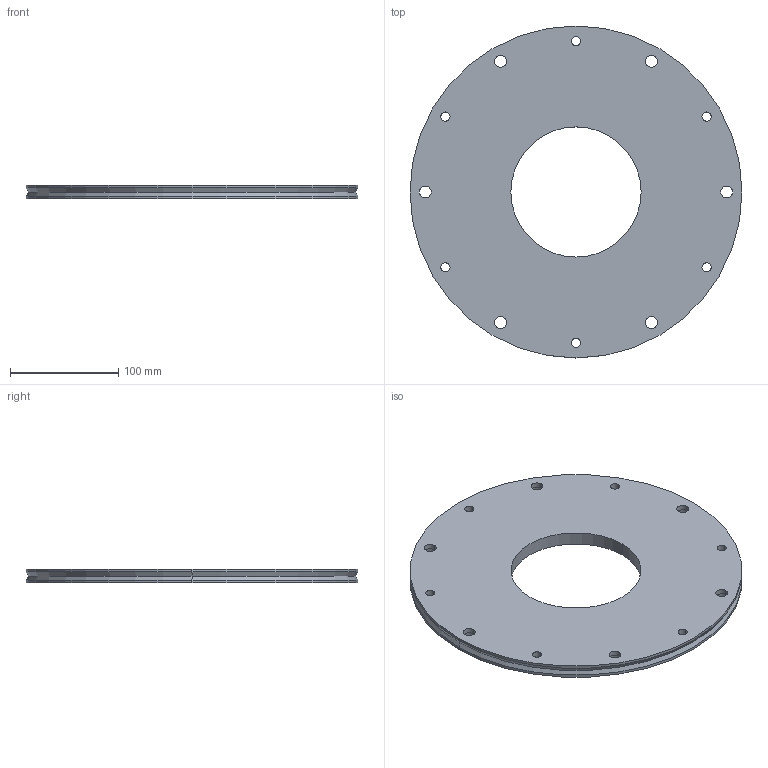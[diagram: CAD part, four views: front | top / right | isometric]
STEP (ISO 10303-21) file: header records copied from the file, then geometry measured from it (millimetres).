
FILE_DESCRIPTION (( 'STEP AP214' ), '1' );
FILE_NAME ('1038 Flansch.STEP', '2025-03-26T14:06:46', ( '' ), ( '' ), 'SwSTEP 2.0', 'SolidWorks 2022', '' );
FILE_SCHEMA (( 'AUTOMOTIVE_DESIGN' ));
Length unit declared in the file: millimetre
Products named in the file (1): 1038 Flansch
Bounding box: 306 x 306 x 12.5 mm (x, y, z)
Volume: 751793.7 mm3; surface area: 145868.3 mm2
Topology: 1 solids, 1 shells, 54 faces, 132 edges, 86 vertices
Faces by surface type: cylinder 42, plane 8, cone 4
Entity records: 1852 total; most frequent: DIRECTION 328, CARTESIAN_POINT 273, ORIENTED_EDGE 264, AXIS2_PLACEMENT_3D 141, EDGE_CURVE 132, EDGE_LOOP 86, CIRCLE 86, VERTEX_POINT 86
